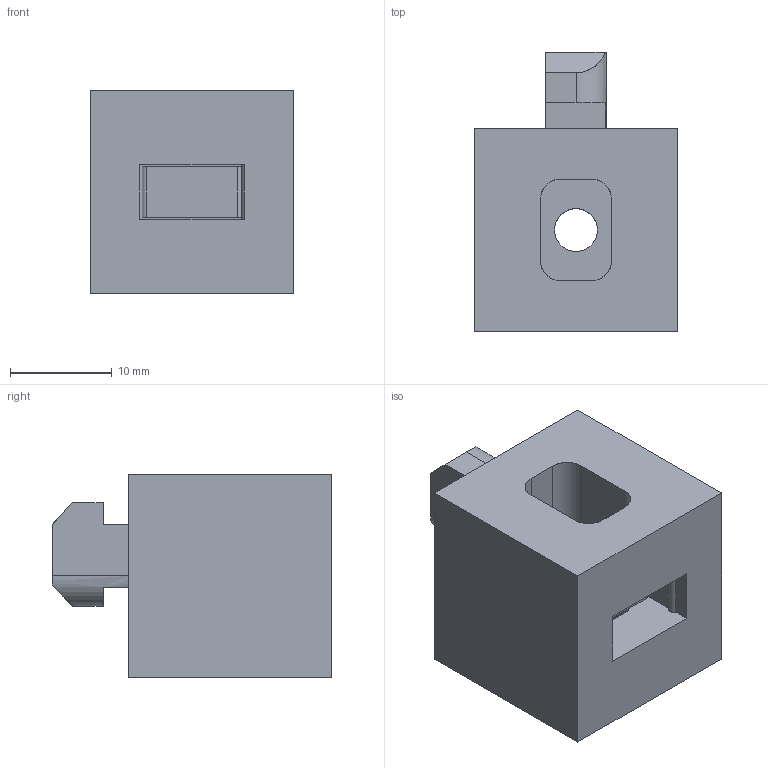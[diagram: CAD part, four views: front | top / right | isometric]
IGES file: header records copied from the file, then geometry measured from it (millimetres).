
Start section: SolidWorks IGES file using analytic representation for surfaces
Global section: file name: C:\Users\admin\Desktop\IGES\J3AP5.igs; native system: SolidWorks 2014; preprocessor: SolidWorks 2014; author: admin_pc; date: 170524.165855; units: millimetre
Bounding box: 20 x 27.5 x 20 mm (x, y, z)
Surface area: 3780.7 mm2 (no closed solid volume)
Topology: 0 solids, 0 shells, 57 faces, 568 edges, 568 vertices
Faces by surface type: bspline 38, revolution 19
